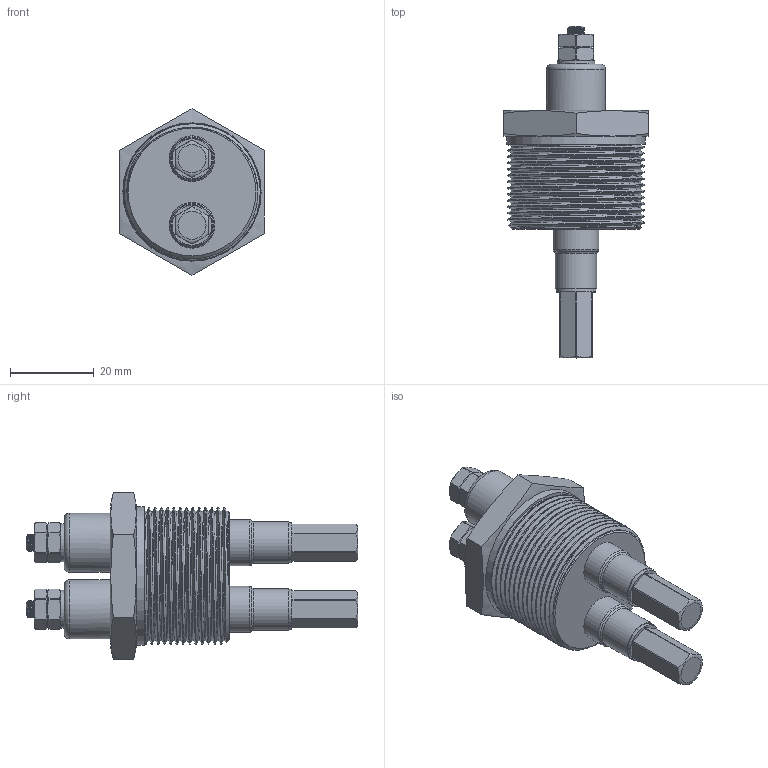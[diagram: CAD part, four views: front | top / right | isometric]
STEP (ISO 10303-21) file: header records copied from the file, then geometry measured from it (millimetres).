
FILE_DESCRIPTION (( 'STEP AP203' ), '1' );
FILE_NAME ('WCT-2.step', '2020-01-16T17:38:48', ( '' ), ( '' ), 'SwSTEP 2.0', 'SolidWorks 2017', '' );
FILE_SCHEMA (( 'CONFIG_CONTROL_DESIGN' ));
Length unit declared in the file: millimetre
Products named in the file (1): WCT-2
Bounding box: 34.4 x 79.17 x 39.72 mm (x, y, z)
Volume: 32326.6 mm3; surface area: 9666.1 mm2
Topology: 1 solids, 1 shells, 149 faces, 376 edges, 248 vertices
Faces by surface type: plane 65, cylinder 54, torus 18, bspline 9, cone 3
Full cylindrical faces by diameter (mm): 4.06 x4, 8.983 x2, 9.515 x2, 9.896 x2, 10.911 x2, 14.083 x2, 32.987 x1
Entity records: 9334 total; most frequent: CARTESIAN_POINT 6061, ORIENTED_EDGE 646, DIRECTION 626, EDGE_CURVE 323, AXIS2_PLACEMENT_3D 268, VERTEX_POINT 231, EDGE_LOOP 204, FACE_OUTER_BOUND 182
